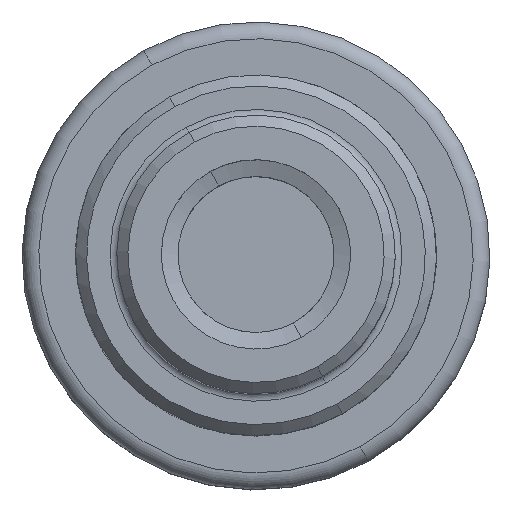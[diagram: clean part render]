
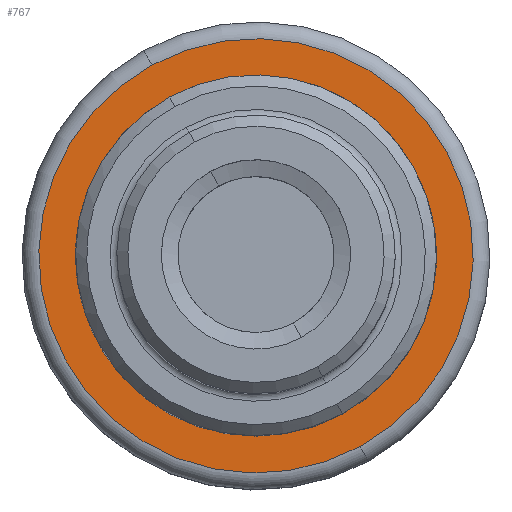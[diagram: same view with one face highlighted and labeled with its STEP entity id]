
A CAD part, top view. The second image highlights one B-rep face of the part: STEP entity #767.
In plain terms, the highlighted planar face has unit normal (0, 0, 1).
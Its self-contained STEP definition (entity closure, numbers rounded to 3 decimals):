
#711=AXIS2_PLACEMENT_3D('Circle Axis2P3D',#709,#710,$) ;
#730=AXIS2_PLACEMENT_3D('Circle Axis2P3D',#728,#729,$) ;
#743=AXIS2_PLACEMENT_3D('Plane Axis2P3D',#740,#741,#742) ;
#751=AXIS2_PLACEMENT_3D('Circle Axis2P3D',#749,#750,$) ;
#760=AXIS2_PLACEMENT_3D('Circle Axis2P3D',#758,#759,$) ;
#706=CARTESIAN_POINT('Vertex',(9.349,-17.113,-76.)) ;
#709=CARTESIAN_POINT('Axis2P3D Location',(0.,0.,-76.)) ;
#713=CARTESIAN_POINT('Vertex',(-9.349,17.113,-76.)) ;
#728=CARTESIAN_POINT('Axis2P3D Location',(0.,0.,-76.)) ;
#740=CARTESIAN_POINT('Axis2P3D Location',(0.,0.,-76.)) ;
#749=CARTESIAN_POINT('Axis2P3D Location',(0.,0.,-76.)) ;
#753=CARTESIAN_POINT('Vertex',(-7.671,-14.041,-76.)) ;
#755=CARTESIAN_POINT('Vertex',(7.671,14.041,-76.)) ;
#758=CARTESIAN_POINT('Axis2P3D Location',(0.,0.,-76.)) ;
#710=DIRECTION('Axis2P3D Direction',(0.,0.,1.)) ;
#729=DIRECTION('Axis2P3D Direction',(0.,0.,1.)) ;
#741=DIRECTION('Axis2P3D Direction',(0.,0.,1.)) ;
#742=DIRECTION('Axis2P3D XDirection',(1.,0.,0.)) ;
#750=DIRECTION('Axis2P3D Direction',(0.,0.,1.)) ;
#759=DIRECTION('Axis2P3D Direction',(0.,0.,1.)) ;
#746=ORIENTED_EDGE('',*,*,#715,.T.) ;
#747=ORIENTED_EDGE('',*,*,#732,.T.) ;
#764=ORIENTED_EDGE('',*,*,#757,.F.) ;
#765=ORIENTED_EDGE('',*,*,#762,.F.) ;
#766=FACE_BOUND('',#763,.T.) ;
#767=ADVANCED_FACE('NOCUT',(#748,#766),#744,.T.) ;
#712=CIRCLE('generated circle',#711,19.5) ;
#731=CIRCLE('generated circle',#730,19.5) ;
#752=CIRCLE('generated circle',#751,16.) ;
#761=CIRCLE('generated circle',#760,16.) ;
#715=EDGE_CURVE('',#714,#707,#712,.T.) ;
#732=EDGE_CURVE('',#707,#714,#731,.T.) ;
#757=EDGE_CURVE('',#754,#756,#752,.T.) ;
#762=EDGE_CURVE('',#756,#754,#761,.T.) ;
#745=EDGE_LOOP('',(#746,#747)) ;
#763=EDGE_LOOP('',(#764,#765)) ;
#748=FACE_OUTER_BOUND('',#745,.T.) ;
#744=PLANE('',#743) ;
#707=VERTEX_POINT('',#706) ;
#714=VERTEX_POINT('',#713) ;
#754=VERTEX_POINT('',#753) ;
#756=VERTEX_POINT('',#755) ;
